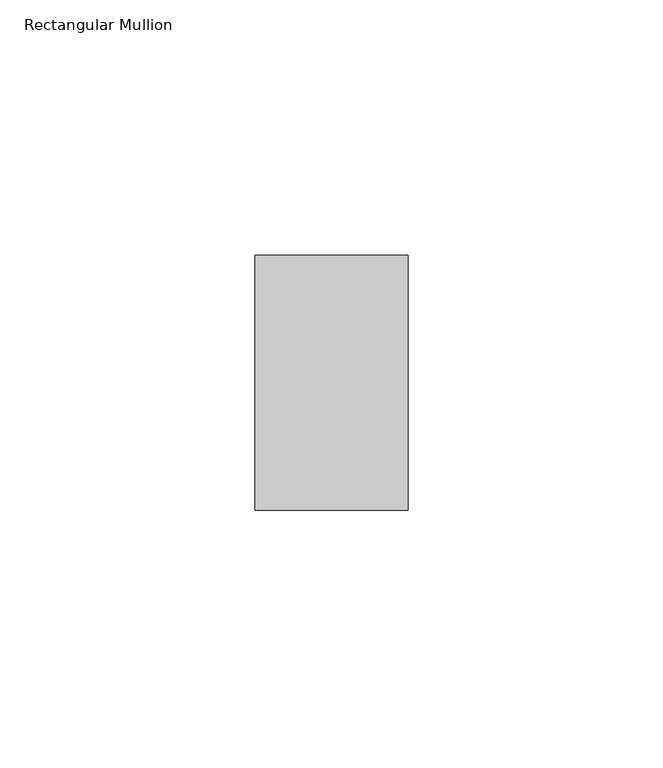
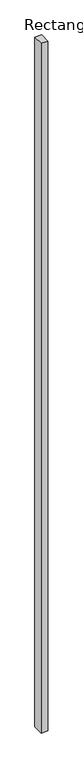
"""IFC4 building model written with IfcOpenShell, lengths in millimetres: member geometry, Rectangular Mullion : ARQ_REJA_MULL_50x30mm."""

import ifcopenshell
import ifcopenshell.guid

model = None  # the IFC model being written
_history = None  # IfcOwnerHistory: only IFC2X3 demands one
_inside = {}  # id of a spatial element -> (the spatial element, [elements in it])
_under = {}  # id of a project, library or spatial element -> (it, [spatial elements below it])
_declared = {}  # id of a project -> (the project, [libraries it declares])
_typed = {}  # id of a type object -> (the type object, [elements of that type])
_made_of = {}  # id of a material, layer set ... -> (it, [elements and type objects made of it])


def new_model(schema):
    """Start an empty IFC model of exactly this schema.

    Asked for "IFC4X3", IfcOpenShell would pick the latest addendum, in which some entities
    have other attributes; the version numbers below select the first issue.
    IFC2X3 requires an IfcOwnerHistory on every rooted entity: one is made here for all.
    """
    global model, _history
    if schema == "IFC4X3":
        model = ifcopenshell.file(schema_version=(4, 3, 0, 0))
    else:
        model = ifcopenshell.file(schema=schema)
    _inside.clear()
    _under.clear()
    _declared.clear()
    _typed.clear()
    _made_of.clear()
    _history = None
    if model.schema == "IFC2X3":
        org = make("IfcOrganization", Name="unknown")
        user = make(
            "IfcPersonAndOrganization",
            ThePerson=make("IfcPerson", FamilyName="unknown"),
            TheOrganization=org,
        )
        app = make(
            "IfcApplication",
            ApplicationDeveloper=org,
            Version="unknown",
            ApplicationFullName="unknown",
            ApplicationIdentifier="unknown",
        )
        _history = make(
            "IfcOwnerHistory",
            OwningUser=user,
            OwningApplication=app,
            ChangeAction="ADDED",
            CreationDate=0,
        )
    return model


def make(cls, **values):
    """One entity of the class cls with the attributes given. An attribute that is None is left unset."""
    return model.create_entity(
        cls, **{name: value for name, value in values.items() if value is not None}
    )


def rooted(cls, **values):
    """An entity with a GlobalId (a new one), such as an element, a storey or a relation."""
    return make(cls, GlobalId=ifcopenshell.guid.new(), OwnerHistory=_history, **values)


def si_unit(unit_type, name, prefix=None):
    """IfcSIUnit, for example si_unit("LENGTHUNIT", "METRE", prefix="MILLI")."""
    return make("IfcSIUnit", UnitType=unit_type, Prefix=prefix, Name=name)


def assignment(units):
    """IfcUnitAssignment: the units of a project."""
    return None if units is None else make("IfcUnitAssignment", Units=units)


def point(xyz):
    """IfcCartesianPoint."""
    return None if xyz is None else make("IfcCartesianPoint", Coordinates=xyz)


def direction(xyz):
    """IfcDirection."""
    return None if xyz is None else make("IfcDirection", DirectionRatios=xyz)


def frame(location, z_axis=None, x_axis=None):
    """IfcAxis2Placement3D, a coordinate frame: its origin and axes. An axis left out is left unset."""
    return make(
        "IfcAxis2Placement3D",
        Location=point(location),
        Axis=direction(z_axis),
        RefDirection=direction(x_axis),
    )


def origin():
    """The frame at (0, 0, 0) with its axes left unset."""
    return frame((0.0, 0.0, 0.0))


def place(relative_to, where):
    """IfcLocalPlacement: puts the frame where relative to a parent placement (None: the world)."""
    return make(
        "IfcLocalPlacement", PlacementRelTo=relative_to, RelativePlacement=where
    )


def context(
    kind, dimensions, precision=None, world=None, true_north=None, identifier=None
):
    """IfcGeometricRepresentationContext, for example the 3D "Model" context."""
    return make(
        "IfcGeometricRepresentationContext",
        ContextIdentifier=identifier,
        ContextType=kind,
        CoordinateSpaceDimension=dimensions,
        Precision=precision,
        WorldCoordinateSystem=world,
        TrueNorth=true_north,
    )


def project(units=None, contexts=None):
    """IfcProject with its units and contexts."""
    return rooted(
        "IfcProject",
        Name="project",
        RepresentationContexts=contexts,
        UnitsInContext=assignment(units),
    )


def spatial(cls, under=None, at=None, **own):
    """A site, building, storey or space (cls), placed at a placement, below another one or the project."""
    s = rooted(cls, ObjectPlacement=at, **own)
    if under is not None:
        _under.setdefault(under.id(), (under, []))[1].append(s)
    return s


def polyline(points):
    """IfcPolyline through the points."""
    return make("IfcPolyline", Points=[point(p) for p in points])


def outline(outer, holes=None, kind="AREA"):
    """IfcArbitraryClosedProfileDef: a profile drawn as a closed curve; with holes, ...WithVoids."""
    if holes is None:
        return make("IfcArbitraryClosedProfileDef", ProfileType=kind, OuterCurve=outer)
    return make(
        "IfcArbitraryProfileDefWithVoids",
        ProfileType=kind,
        OuterCurve=outer,
        InnerCurves=holes,
    )


def extrude(swept, where, along, depth):
    """IfcExtrudedAreaSolid: the profile swept, set in the frame where, extruded along a direction by depth."""
    return make(
        "IfcExtrudedAreaSolid",
        SweptArea=swept,
        Position=where,
        ExtrudedDirection=direction(along),
        Depth=depth,
    )


def shape(context_of_items, identifier, shape_type, items):
    """IfcShapeRepresentation: the items that make up one representation, for example the "Body"."""
    return make(
        "IfcShapeRepresentation",
        ContextOfItems=context_of_items,
        RepresentationIdentifier=identifier,
        RepresentationType=shape_type,
        Items=items,
    )


def source(mapping_origin, context_of_items, identifier, shape_type, items):
    """IfcRepresentationMap: a shape defined once, which mapped items show again and again."""
    return make(
        "IfcRepresentationMap",
        MappingOrigin=mapping_origin,
        MappedRepresentation=shape(context_of_items, identifier, shape_type, items),
    )


def transform(
    local_origin,
    x_axis=None,
    y_axis=None,
    z_axis=None,
    scale=None,
    scale2=None,
    scale3=None,
    uniform=True,
):
    """IfcCartesianTransformationOperator3D, or its non-uniform kind. x_axis, y_axis, z_axis: its Axis1, 2, 3."""
    if uniform:
        return make(
            "IfcCartesianTransformationOperator3D",
            Axis1=direction(x_axis),
            Axis2=direction(y_axis),
            LocalOrigin=point(local_origin),
            Scale=scale,
            Axis3=direction(z_axis),
        )
    return make(
        "IfcCartesianTransformationOperator3DnonUniform",
        Axis1=direction(x_axis),
        Axis2=direction(y_axis),
        LocalOrigin=point(local_origin),
        Scale=scale,
        Axis3=direction(z_axis),
        Scale2=scale2,
        Scale3=scale3,
    )


def mapped(mapping_source, mapping_target):
    """IfcMappedItem: shows the shape of a source again, moved by a transform."""
    return make(
        "IfcMappedItem", MappingSource=mapping_source, MappingTarget=mapping_target
    )


def made_of(thing, what):
    """Note that an element or type object is made of a material, layer set ...; save() writes the relation."""
    if what is not None:
        _made_of.setdefault(what.id(), (what, []))[1].append(thing)
    return thing


def element(
    cls,
    number,
    at=None,
    inside=None,
    cuts=None,
    type_object=None,
    material=None,
    context=None,
    identifier="Body",
    shape_type=None,
    held_by="IfcProductDefinitionShape",
    body=None,
    shapes=None,
    **own,
):
    """One element of the class cls, such as IfcWall. Its Tag is "e" and its number.

    at: its placement. inside: the storey or other place that contains it. cuts: it is an
    opening in that element (IfcRelVoidsElement). A single representation is given by context,
    identifier, shape_type and body (its items); several are given by shapes. held_by: the class
    of the entity that holds the representations. save() writes the other relations.
    """
    e = rooted(cls, Tag="e%d" % number, ObjectPlacement=at, **own)
    if body is not None:
        shapes = [shape(context, identifier, shape_type, body)]
    if shapes is not None:
        e.Representation = make(held_by, Representations=shapes)
    if inside is not None:
        _inside.setdefault(inside.id(), (inside, []))[1].append(e)
    if cuts is not None:
        rooted(
            "IfcRelVoidsElement", RelatingBuildingElement=cuts, RelatedOpeningElement=e
        )
    if type_object is not None:
        _typed.setdefault(type_object.id(), (type_object, []))[1].append(e)
    return made_of(e, material)


def aggregate(whole, parts):
    """IfcRelAggregates: a whole, such as a stair, and the parts it consists of."""
    return rooted("IfcRelAggregates", RelatingObject=whole, RelatedObjects=parts)


def save(model, path):
    """Write the relations noted so far, then the file.

    IfcRelAggregates (storeys below a building ...), IfcRelContainedInSpatialStructure (elements
    in a storey), IfcRelDefinesByType, IfcRelAssociatesMaterial and IfcRelDeclares: one each for
    every whole, place, type object, material and project.
    """
    for whole, parts in _under.values():
        aggregate(whole, parts)
    for where, things in _inside.values():
        rooted(
            "IfcRelContainedInSpatialStructure",
            RelatedElements=things,
            RelatingStructure=where,
        )
    for kind, things in _typed.values():
        rooted("IfcRelDefinesByType", RelatedObjects=things, RelatingType=kind)
    for what, things in _made_of.values():
        rooted("IfcRelAssociatesMaterial", RelatedObjects=things, RelatingMaterial=what)
    for by, libraries in _declared.values():
        rooted("IfcRelDeclares", RelatingContext=by, RelatedDefinitions=libraries)
    model.write(path)


def rectangular_mullion_757003fa(model_context):
    return source(origin(), model_context, "Body", "SweptSolid", [
        extrude(outline(polyline([(0.0, 25.0), (0.0, -25.0), (-30.0, -25.0), (-30.0, 25.0), (0.0, 25.0)])), frame((0.0, 0.0, -3302.3045648), z_axis=(0.0, 0.0, 1.0), x_axis=(1.0, 0.0, 0.0)), (0.0, 0.0, 1.0), 3302.3045648),
    ])


if __name__ == "__main__":
    model = new_model("IFC4")
    model_context = context("Model", 3, world=origin())
    ifc_project = project(units=[si_unit("LENGTHUNIT", "METRE", prefix="MILLI")], contexts=[model_context])
    site = spatial("IfcSite", under=ifc_project)
    building = spatial("IfcBuilding", under=site)
    placement = place(None, origin())
    rectangular_mullion_shape = rectangular_mullion_757003fa(model_context)
    element("IfcMember", 1, ObjectType="Rectangular Mullion : ARQ_REJA_MULL_50x30mm", at=placement, inside=building, context=model_context, shape_type="MappedRepresentation", body=[
        mapped(rectangular_mullion_shape, transform((0.0, 0.0, 0.0), x_axis=(1.0, 0.0, 0.0), y_axis=(0.0, 1.0, 0.0), z_axis=(0.0, 0.0, 1.0))),
    ])
    save(model, "model.ifc")
